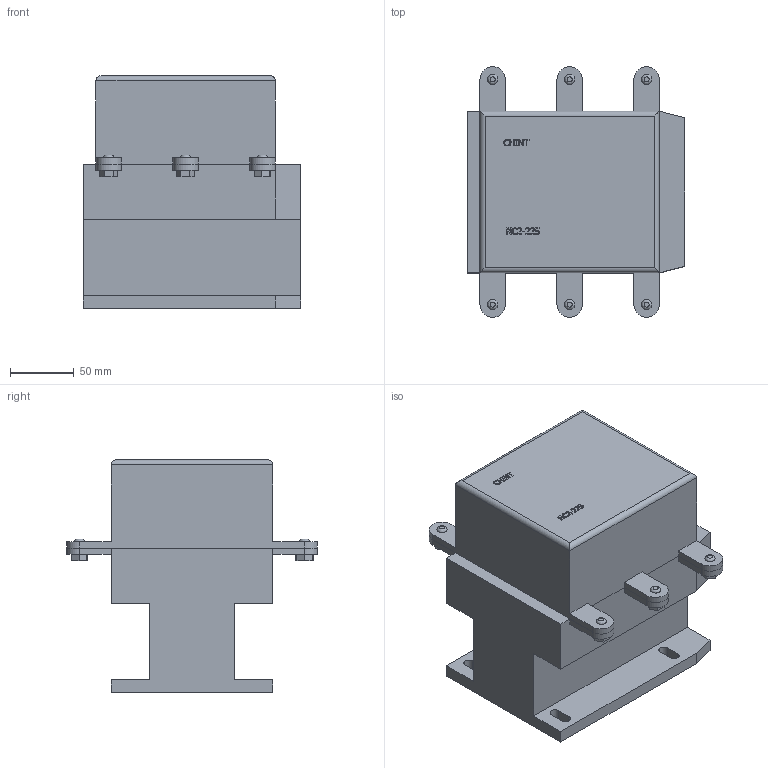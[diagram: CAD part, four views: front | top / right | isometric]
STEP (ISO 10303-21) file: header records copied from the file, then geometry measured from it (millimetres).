
FILE_DESCRIPTION(/* description */ (''),/* implementation_level */ '2;1');
FILE_NAME(/* name */ 'D:\CHINT2\NC2\NC2-225 230В 50Гц.stp',/* time_stamp */ '2017-11-12T20:50:06+03:00',/* author */ ('RSagdiev'),/* organization */ (''),/* preprocessor_version */ 'ST-DEVELOPER v16.5',/* originating_system */ 'Autodesk Inventor 2017',/* authorisation */ '');
FILE_SCHEMA (('AUTOMOTIVE_DESIGN { 1 0 10303 214 3 1 1 }'));
Length unit declared in the file: millimetre
Products named in the file (1): NC2-225 230В 50Гц
Bounding box: 171 x 197 x 183.1 mm (x, y, z)
Volume: 3124702.2 mm3; surface area: 219439.9 mm2
Topology: 14 solids, 14 shells, 333 faces, 885 edges, 592 vertices
Faces by surface type: plane 225, bspline 84, cylinder 24
Entity records: 11095 total; most frequent: CARTESIAN_POINT 3225, ORIENTED_EDGE 1770, DIRECTION 1291, EDGE_CURVE 885, LINE 655, VECTOR 655, VERTEX_POINT 592, EDGE_LOOP 353
